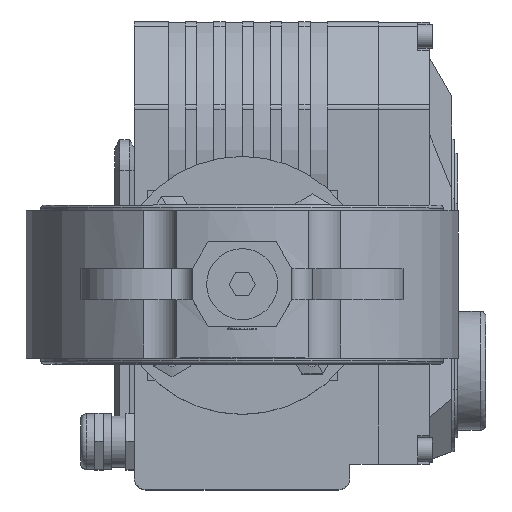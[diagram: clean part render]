
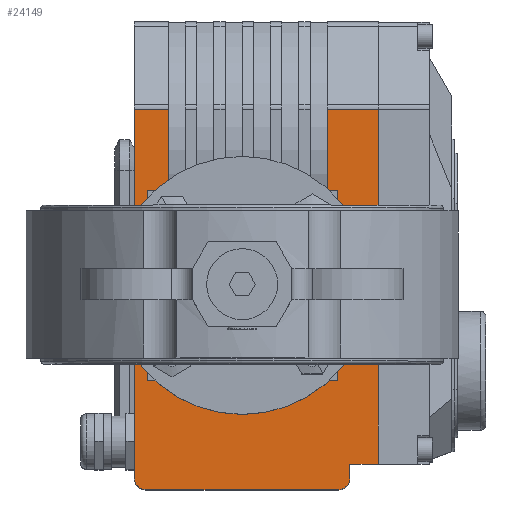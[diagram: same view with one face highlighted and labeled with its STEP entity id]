
A CAD part, top view. The second image highlights one B-rep face of the part: STEP entity #24149.
In plain terms, the highlighted planar face has unit normal (0, 0, 1) as drawn and (0, -1, 0) by its records, which use the part's own axes.
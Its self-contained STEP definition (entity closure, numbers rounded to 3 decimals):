
#18896=DIRECTION('',(1.,0.,0.));
#18897=VECTOR('',#18896,130.189);
#18898=CARTESIAN_POINT('',(-56.,-37.5,0.));
#18899=LINE('',#18898,#18897);
#19561=DIRECTION('',(0.,0.,-1.));
#19562=VECTOR('',#19561,67.);
#19563=CARTESIAN_POINT('',(-21.5,-37.5,-4.5));
#19564=LINE('',#19563,#19562);
#19565=DIRECTION('',(1.,0.,0.));
#19566=VECTOR('',#19565,67.);
#19567=CARTESIAN_POINT('',(-21.5,-37.5,-71.5));
#19568=LINE('',#19567,#19566);
#19569=DIRECTION('',(0.,0.,1.));
#19570=VECTOR('',#19569,3.5);
#19571=CARTESIAN_POINT('',(45.5,-37.5,-71.5));
#19572=LINE('',#19571,#19570);
#19573=DIRECTION('',(-1.,0.,0.));
#19574=VECTOR('',#19573,28.689);
#19575=CARTESIAN_POINT('',(74.189,-37.5,-68.));
#19576=LINE('',#19575,#19574);
#19577=DIRECTION('',(0.,0.,1.));
#19578=VECTOR('',#19577,18.);
#19579=CARTESIAN_POINT('',(74.189,-37.5,-86.));
#19580=LINE('',#19579,#19578);
#19581=CARTESIAN_POINT('',(-56.,-37.5,-72.));
#19582=DIRECTION('',(0.,-1.,0.));
#19583=DIRECTION('',(-1.,0.,0.));
#19584=AXIS2_PLACEMENT_3D('',#19581,#19582,#19583);
#19586=DIRECTION('',(0.,0.,-1.));
#19587=VECTOR('',#19586,68.);
#19588=CARTESIAN_POINT('',(-60.,-37.5,-4.));
#19589=LINE('',#19588,#19587);
#19590=CARTESIAN_POINT('',(-56.,-37.5,-4.));
#19591=DIRECTION('',(0.,-1.,0.));
#19592=DIRECTION('',(0.,0.,1.));
#19593=AXIS2_PLACEMENT_3D('',#19590,#19591,#19592);
#19595=DIRECTION('',(0.,0.,1.));
#19596=VECTOR('',#19595,12.);
#19597=CARTESIAN_POINT('',(74.189,-37.5,-12.));
#19598=LINE('',#19597,#19596);
#19599=DIRECTION('',(-1.,0.,0.));
#19600=VECTOR('',#19599,28.689);
#19601=CARTESIAN_POINT('',(74.189,-37.5,-12.));
#19602=LINE('',#19601,#19600);
#19603=DIRECTION('',(0.,0.,1.));
#19604=VECTOR('',#19603,7.5);
#19605=CARTESIAN_POINT('',(45.5,-37.5,-12.));
#19606=LINE('',#19605,#19604);
#19607=DIRECTION('',(-1.,0.,0.));
#19608=VECTOR('',#19607,67.);
#19609=CARTESIAN_POINT('',(45.5,-37.5,-4.5));
#19610=LINE('',#19609,#19608);
#21560=DIRECTION('',(-1.,0.,0.));
#21561=VECTOR('',#21560,125.189);
#21562=CARTESIAN_POINT('',(74.189,-37.5,-86.));
#21563=LINE('',#21562,#21561);
#21591=DIRECTION('',(0.,0.,-1.));
#21592=VECTOR('',#21591,10.);
#21593=CARTESIAN_POINT('',(-51.,-37.5,-76.));
#21594=LINE('',#21593,#21592);
#21595=DIRECTION('',(1.,0.,0.));
#21596=VECTOR('',#21595,5.);
#21597=CARTESIAN_POINT('',(-56.,-37.5,-76.));
#21598=LINE('',#21597,#21596);
#22320=CARTESIAN_POINT('',(-51.,-37.5,-86.));
#22322=VERTEX_POINT('',#22320);
#22324=CARTESIAN_POINT('',(-51.,-37.5,-76.));
#22326=VERTEX_POINT('',#22324);
#22328=CARTESIAN_POINT('',(-56.,-37.5,0.));
#22329=CARTESIAN_POINT('',(-60.,-37.5,-4.));
#22330=VERTEX_POINT('',#22328);
#22331=VERTEX_POINT('',#22329);
#22340=CARTESIAN_POINT('',(-60.,-37.5,-72.));
#22341=CARTESIAN_POINT('',(-56.,-37.5,-76.));
#22342=VERTEX_POINT('',#22340);
#22343=VERTEX_POINT('',#22341);
#22384=CARTESIAN_POINT('',(74.189,-37.5,0.));
#22386=VERTEX_POINT('',#22384);
#22389=CARTESIAN_POINT('',(74.189,-37.5,-86.));
#22391=VERTEX_POINT('',#22389);
#22544=CARTESIAN_POINT('',(74.189,-37.5,-12.));
#22545=VERTEX_POINT('',#22544);
#22608=CARTESIAN_POINT('',(-21.5,-37.5,-4.5));
#22609=CARTESIAN_POINT('',(-21.5,-37.5,-71.5));
#22610=VERTEX_POINT('',#22608);
#22611=VERTEX_POINT('',#22609);
#22612=CARTESIAN_POINT('',(45.5,-37.5,-71.5));
#22613=VERTEX_POINT('',#22612);
#22614=CARTESIAN_POINT('',(45.5,-37.5,-68.));
#22615=VERTEX_POINT('',#22614);
#22632=CARTESIAN_POINT('',(45.5,-37.5,-4.5));
#22633=VERTEX_POINT('',#22632);
#22634=CARTESIAN_POINT('',(45.5,-37.5,-12.));
#22635=VERTEX_POINT('',#22634);
#23302=CARTESIAN_POINT('',(74.189,-37.5,-68.));
#23303=VERTEX_POINT('',#23302);
#24113=CARTESIAN_POINT('',(-60.,-37.5,0.));
#24114=DIRECTION('',(0.,-1.,0.));
#24115=DIRECTION('',(1.,0.,0.));
#24116=AXIS2_PLACEMENT_3D('',#24113,#24114,#24115);
#24117=PLANE('',#24116);
#24119=ORIENTED_EDGE('',*,*,#24118,.T.);
#24121=ORIENTED_EDGE('',*,*,#24120,.T.);
#24123=ORIENTED_EDGE('',*,*,#24122,.T.);
#24125=ORIENTED_EDGE('',*,*,#24124,.F.);
#24127=ORIENTED_EDGE('',*,*,#24126,.F.);
#24129=ORIENTED_EDGE('',*,*,#24128,.T.);
#24131=ORIENTED_EDGE('',*,*,#24130,.F.);
#24133=ORIENTED_EDGE('',*,*,#24132,.F.);
#24135=ORIENTED_EDGE('',*,*,#24134,.F.);
#24137=ORIENTED_EDGE('',*,*,#24136,.F.);
#24138=ORIENTED_EDGE('',*,*,#24105,.F.);
#24139=ORIENTED_EDGE('',*,*,#23395,.T.);
#24141=ORIENTED_EDGE('',*,*,#24140,.F.);
#24142=ORIENTED_EDGE('',*,*,#23585,.T.);
#24144=ORIENTED_EDGE('',*,*,#24143,.T.);
#24146=ORIENTED_EDGE('',*,*,#24145,.T.);
#24147=EDGE_LOOP('',(#24119,#24121,#24123,#24125,#24127,#24129,#24131,#24133,
#24135,#24137,#24138,#24139,#24141,#24142,#24144,#24146));
#24148=FACE_OUTER_BOUND('',#24147,.F.);
#24149=ADVANCED_FACE('',(#24148),#24117,.T.);
#19585=CIRCLE('',#19584,4.);
#19594=CIRCLE('',#19593,4.);
#23395=EDGE_CURVE('',#22330,#22386,#18899,.T.);
#23585=EDGE_CURVE('',#22545,#22635,#19602,.T.);
#24105=EDGE_CURVE('',#22330,#22331,#19594,.T.);
#24118=EDGE_CURVE('',#22610,#22611,#19564,.T.);
#24120=EDGE_CURVE('',#22611,#22613,#19568,.T.);
#24122=EDGE_CURVE('',#22613,#22615,#19572,.T.);
#24124=EDGE_CURVE('',#23303,#22615,#19576,.T.);
#24126=EDGE_CURVE('',#22391,#23303,#19580,.T.);
#24128=EDGE_CURVE('',#22391,#22322,#21563,.T.);
#24130=EDGE_CURVE('',#22326,#22322,#21594,.T.);
#24132=EDGE_CURVE('',#22343,#22326,#21598,.T.);
#24134=EDGE_CURVE('',#22342,#22343,#19585,.T.);
#24136=EDGE_CURVE('',#22331,#22342,#19589,.T.);
#24140=EDGE_CURVE('',#22545,#22386,#19598,.T.);
#24143=EDGE_CURVE('',#22635,#22633,#19606,.T.);
#24145=EDGE_CURVE('',#22633,#22610,#19610,.T.);
